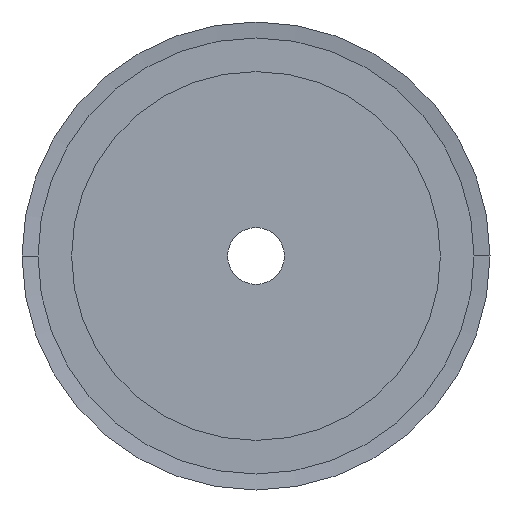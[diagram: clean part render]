
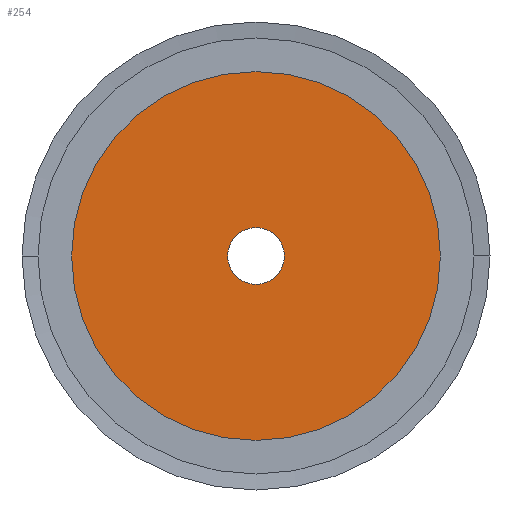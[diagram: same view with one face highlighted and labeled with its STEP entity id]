
A CAD part, left-side view. The second image highlights one B-rep face of the part: STEP entity #254.
In plain terms, the highlighted planar face has unit normal (-1, 0, 0).
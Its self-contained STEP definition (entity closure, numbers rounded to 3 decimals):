
#254 = ADVANCED_FACE( '', ( #620, #621 ), #622, .T. );
#620 = FACE_BOUND( '', #987, .T. );
#621 = FACE_OUTER_BOUND( '', #988, .T. );
#622 = PLANE( '', #989 );
#987 = EDGE_LOOP( '', ( #2545, #2546 ) );
#988 = EDGE_LOOP( '', ( #2547, #2548 ) );
#989 = AXIS2_PLACEMENT_3D( '', #2549, #2550, #2551 );
#2545 = ORIENTED_EDGE( '', *, *, #3057, .F. );
#2546 = ORIENTED_EDGE( '', *, *, #2567, .F. );
#2547 = ORIENTED_EDGE( '', *, *, #2555, .T. );
#2548 = ORIENTED_EDGE( '', *, *, #3062, .T. );
#2549 = CARTESIAN_POINT( '', ( 0., 15., 0. ) );
#2550 = DIRECTION( '', ( -1., 0., 0. ) );
#2551 = DIRECTION( '', ( 0., 1., 0. ) );
#2555 = EDGE_CURVE( '', #3064, #3068, #3070, .T. );
#2567 = EDGE_CURVE( '', #3092, #3088, #3094, .T. );
#3057 = EDGE_CURVE( '', #3088, #3092, #3906, .T. );
#3062 = EDGE_CURVE( '', #3068, #3064, #3911, .T. );
#3064 = VERTEX_POINT( '', #3913 );
#3068 = VERTEX_POINT( '', #3918 );
#3070 = CIRCLE( '', #3921, 26. );
#3088 = VERTEX_POINT( '', #3943 );
#3092 = VERTEX_POINT( '', #3948 );
#3094 = CIRCLE( '', #3951, 4. );
#3906 = CIRCLE( '', #5042, 4. );
#3911 = CIRCLE( '', #5047, 26. );
#3913 = CARTESIAN_POINT( '', ( 0., 26., 0. ) );
#3918 = CARTESIAN_POINT( '', ( 0., -26., 0. ) );
#3921 = AXIS2_PLACEMENT_3D( '', #5053, #5054, #5055 );
#3943 = CARTESIAN_POINT( '', ( 0., 4., 0. ) );
#3948 = CARTESIAN_POINT( '', ( 0., -4., 0. ) );
#3951 = AXIS2_PLACEMENT_3D( '', #5077, #5078, #5079 );
#5042 = AXIS2_PLACEMENT_3D( '', #5989, #5990, #5991 );
#5047 = AXIS2_PLACEMENT_3D( '', #6004, #6005, #6006 );
#5053 = CARTESIAN_POINT( '', ( 0., 0., 0. ) );
#5054 = DIRECTION( '', ( -1., 0., 0. ) );
#5055 = DIRECTION( '', ( 0., 1., 0. ) );
#5077 = CARTESIAN_POINT( '', ( 0., 0., 0. ) );
#5078 = DIRECTION( '', ( -1., 0., 0. ) );
#5079 = DIRECTION( '', ( 0., 1., 0. ) );
#5989 = CARTESIAN_POINT( '', ( 0., 0., 0. ) );
#5990 = DIRECTION( '', ( -1., 0., 0. ) );
#5991 = DIRECTION( '', ( 0., 1., 0. ) );
#6004 = CARTESIAN_POINT( '', ( 0., 0., 0. ) );
#6005 = DIRECTION( '', ( -1., 0., 0. ) );
#6006 = DIRECTION( '', ( 0., 1., 0. ) );
